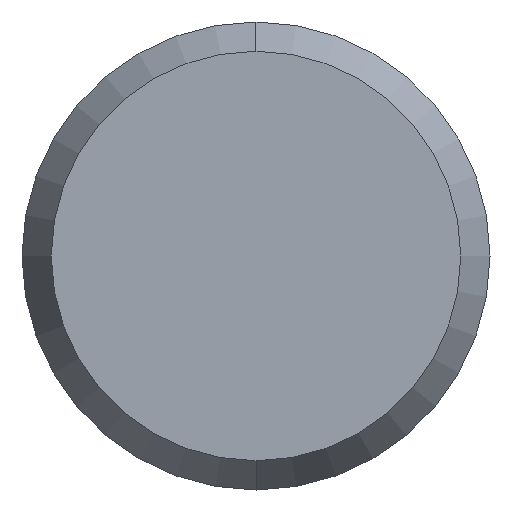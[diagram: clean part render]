
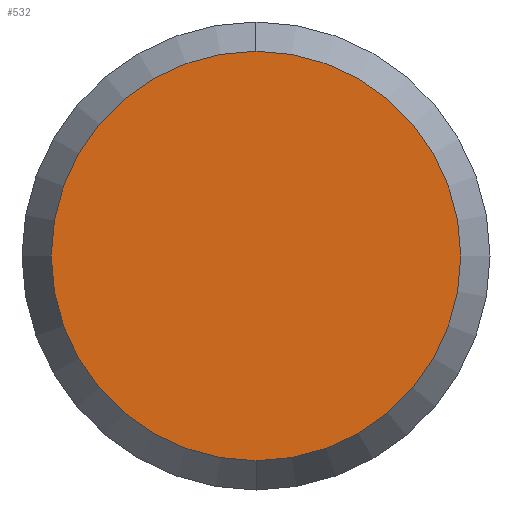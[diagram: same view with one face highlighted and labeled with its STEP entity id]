
A CAD part, left-side view. The second image highlights one B-rep face of the part: STEP entity #532.
In plain terms, the highlighted planar face has unit normal (-1, 0, 0).
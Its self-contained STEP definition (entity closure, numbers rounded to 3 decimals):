
#16 = CARTESIAN_POINT ( 'NONE',  ( 0., 0., 3.5 ) ) ;
#29 = CIRCLE ( 'NONE', #505, 3.5 ) ;
#46 = CARTESIAN_POINT ( 'NONE',  ( 0., 0., 0. ) ) ;
#58 = DIRECTION ( 'NONE',  ( -1., 0., 0. ) ) ;
#89 = EDGE_CURVE ( 'NONE', #350, #809, #225, .T. ) ;
#99 = AXIS2_PLACEMENT_3D ( 'NONE', #682, #560, #223 ) ;
#101 = CARTESIAN_POINT ( 'NONE',  ( 0., 0., 0. ) ) ;
#122 = EDGE_LOOP ( 'NONE', ( #153, #545 ) ) ;
#153 = ORIENTED_EDGE ( 'NONE', *, *, #89, .T. ) ;
#218 = DIRECTION ( 'NONE',  ( 0., 0., 1. ) ) ;
#223 = DIRECTION ( 'NONE',  ( 0., 0., -1. ) ) ;
#225 = CIRCLE ( 'NONE', #399, 3.5 ) ;
#302 = DIRECTION ( 'NONE',  ( 0., 0., 1. ) ) ;
#350 = VERTEX_POINT ( 'NONE', #671 ) ;
#399 = AXIS2_PLACEMENT_3D ( 'NONE', #46, #58, #302 ) ;
#419 = FACE_OUTER_BOUND ( 'NONE', #122, .T. ) ;
#505 = AXIS2_PLACEMENT_3D ( 'NONE', #101, #815, #218 ) ;
#507 = EDGE_CURVE ( 'NONE', #809, #350, #29, .T. ) ;
#532 = ADVANCED_FACE ( 'NONE', ( #419 ), #623, .F. ) ;
#545 = ORIENTED_EDGE ( 'NONE', *, *, #507, .T. ) ;
#560 = DIRECTION ( 'NONE',  ( 1., 0., 0. ) ) ;
#623 = PLANE ( 'NONE',  #99 ) ;
#671 = CARTESIAN_POINT ( 'NONE',  ( 0., 0., -3.5 ) ) ;
#682 = CARTESIAN_POINT ( 'NONE',  ( 0., 0., 0. ) ) ;
#809 = VERTEX_POINT ( 'NONE', #16 ) ;
#815 = DIRECTION ( 'NONE',  ( -1., 0., 0. ) ) ;
